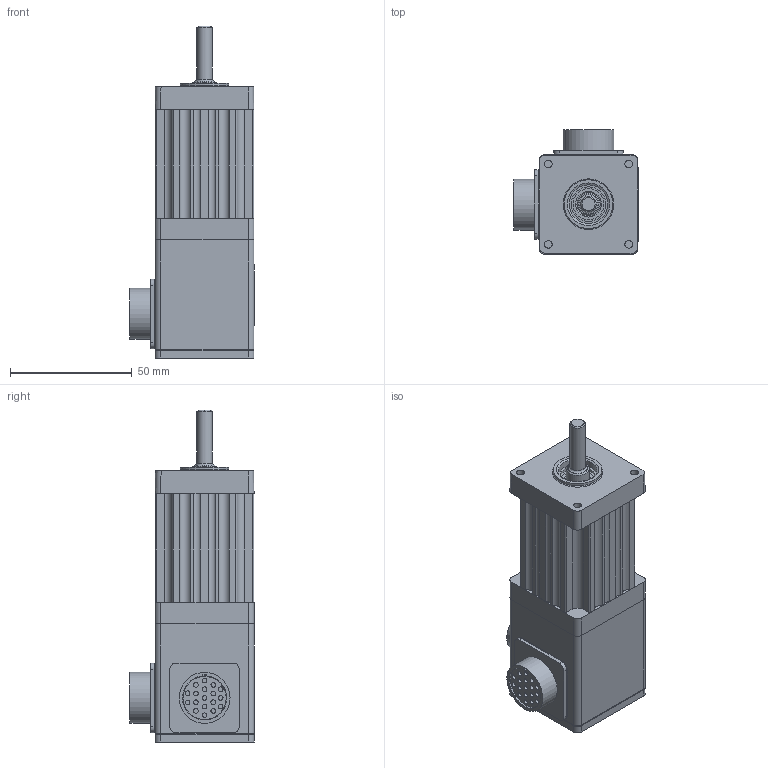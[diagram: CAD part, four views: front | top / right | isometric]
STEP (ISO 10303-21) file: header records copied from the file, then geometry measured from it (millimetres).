
FILE_DESCRIPTION((''),'2;1');
FILE_NAME('C:\CAD_work\Dummy_Modeling_Project_02-12-05\3D MODELS\SM161_MS_TQ.stp','2005-12-20T17:39:31',('jevans'),(''),'Autodesk Inventor 10','Autodesk Inventor 10','');
FILE_SCHEMA(('AUTOMOTIVE_DESIGN { 1 0 10303 214 1 1 1 1 }'));
Length unit declared in the file: inch
Products named in the file (1): SM16_MS_TQ
Bounding box: 51.03 x 50.98 x 136.4 mm (x, y, z)
Volume: 177076.4 mm3; surface area: 29800.6 mm2
Topology: 3 solids, 3 shells, 264 faces, 635 edges, 400 vertices
Faces by surface type: plane 124, cylinder 115, sphere 12, bspline 9, cone 3, torus 1
Full cylindrical faces by diameter (mm): 1.905 x26, 2.54 x4, 6.35 x1, 9.525 x2, 12.7 x1, 14.224 x1, 15.875 x1, 17.526 x1, 17.678 x1, 20.015 x1, 20.904 x2, 22.225 x1, 22.228 x1
Entity records: 7336 total; most frequent: CARTESIAN_POINT 1405, DIRECTION 1296, ORIENTED_EDGE 1076, EDGE_CURVE 538, AXIS2_PLACEMENT_3D 502, VERTEX_POINT 382, EDGE_LOOP 376, VECTOR 292
